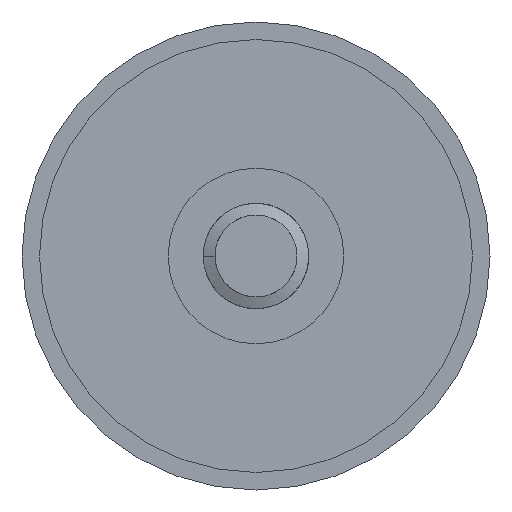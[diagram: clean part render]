
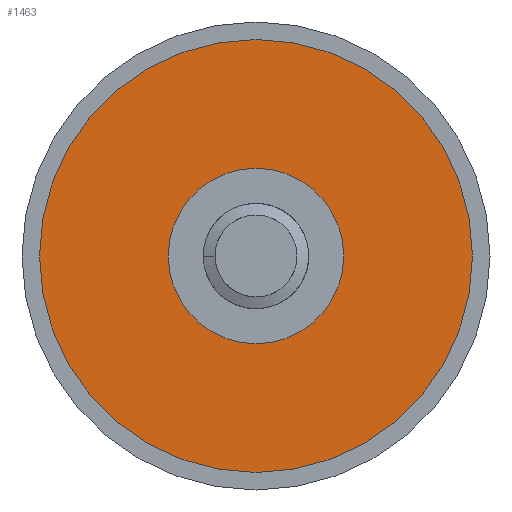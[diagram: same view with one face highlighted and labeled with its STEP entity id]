
A CAD part, front view. The second image highlights one B-rep face of the part: STEP entity #1463.
In plain terms, the highlighted planar face has unit normal (0, -1, 0).
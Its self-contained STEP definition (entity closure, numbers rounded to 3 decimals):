
#27 = CARTESIAN_POINT ( 'NONE',  ( 0., 0., 0. ) ) ;
#93 = CIRCLE ( 'NONE', #12959, 18.5 ) ;
#172 = CARTESIAN_POINT ( 'NONE',  ( 0., 0., 18.5 ) ) ;
#482 = CARTESIAN_POINT ( 'NONE',  ( 0., 0., 0. ) ) ;
#1124 = DIRECTION ( 'NONE',  ( 0., 0., -1. ) ) ;
#1138 = ORIENTED_EDGE ( 'NONE', *, *, #4570, .F. ) ;
#1420 = EDGE_CURVE ( 'NONE', #7085, #14004, #93, .T. ) ;
#1463 = ADVANCED_FACE ( 'NONE', ( #10434, #14503 ), #4006, .F. ) ;
#2266 = EDGE_CURVE ( 'NONE', #5456, #12374, #4905, .T. ) ;
#2455 = CIRCLE ( 'NONE', #12804, 7.5 ) ;
#2488 = CIRCLE ( 'NONE', #9055, 18.5 ) ;
#4006 = PLANE ( 'NONE',  #4135 ) ;
#4135 = AXIS2_PLACEMENT_3D ( 'NONE', #8636, #13076, #14231 ) ;
#4220 = EDGE_LOOP ( 'NONE', ( #10379, #5290 ) ) ;
#4570 = EDGE_CURVE ( 'NONE', #12374, #5456, #2455, .T. ) ;
#4905 = CIRCLE ( 'NONE', #11752, 7.5 ) ;
#5262 = DIRECTION ( 'NONE',  ( 0., -1., 0. ) ) ;
#5290 = ORIENTED_EDGE ( 'NONE', *, *, #5867, .T. ) ;
#5453 = ORIENTED_EDGE ( 'NONE', *, *, #2266, .F. ) ;
#5456 = VERTEX_POINT ( 'NONE', #10241 ) ;
#5867 = EDGE_CURVE ( 'NONE', #14004, #7085, #2488, .T. ) ;
#6103 = DIRECTION ( 'NONE',  ( 0., -1., 0. ) ) ;
#6808 = DIRECTION ( 'NONE',  ( 0., 0., -1. ) ) ;
#7085 = VERTEX_POINT ( 'NONE', #7193 ) ;
#7193 = CARTESIAN_POINT ( 'NONE',  ( 0., 0., -18.5 ) ) ;
#7894 = CARTESIAN_POINT ( 'NONE',  ( 0., 0., 0. ) ) ;
#8556 = CARTESIAN_POINT ( 'NONE',  ( 0., 0., 0. ) ) ;
#8636 = CARTESIAN_POINT ( 'NONE',  ( 0., 0., 0. ) ) ;
#9055 = AXIS2_PLACEMENT_3D ( 'NONE', #8556, #5262, #14364 ) ;
#9262 = EDGE_LOOP ( 'NONE', ( #5453, #1138 ) ) ;
#10241 = CARTESIAN_POINT ( 'NONE',  ( 0., 0., -7.5 ) ) ;
#10379 = ORIENTED_EDGE ( 'NONE', *, *, #1420, .T. ) ;
#10434 = FACE_BOUND ( 'NONE', #9262, .T. ) ;
#11214 = DIRECTION ( 'NONE',  ( 0., -1., 0. ) ) ;
#11752 = AXIS2_PLACEMENT_3D ( 'NONE', #27, #12440, #6808 ) ;
#11790 = CARTESIAN_POINT ( 'NONE',  ( 0., 0., 7.5 ) ) ;
#12374 = VERTEX_POINT ( 'NONE', #11790 ) ;
#12440 = DIRECTION ( 'NONE',  ( 0., -1., 0. ) ) ;
#12804 = AXIS2_PLACEMENT_3D ( 'NONE', #7894, #11214, #1124 ) ;
#12959 = AXIS2_PLACEMENT_3D ( 'NONE', #482, #6103, #14050 ) ;
#13076 = DIRECTION ( 'NONE',  ( 0., 1., 0. ) ) ;
#14004 = VERTEX_POINT ( 'NONE', #172 ) ;
#14050 = DIRECTION ( 'NONE',  ( 0., 0., -1. ) ) ;
#14231 = DIRECTION ( 'NONE',  ( 0., 0., 1. ) ) ;
#14364 = DIRECTION ( 'NONE',  ( 0., 0., -1. ) ) ;
#14503 = FACE_OUTER_BOUND ( 'NONE', #4220, .T. ) ;
